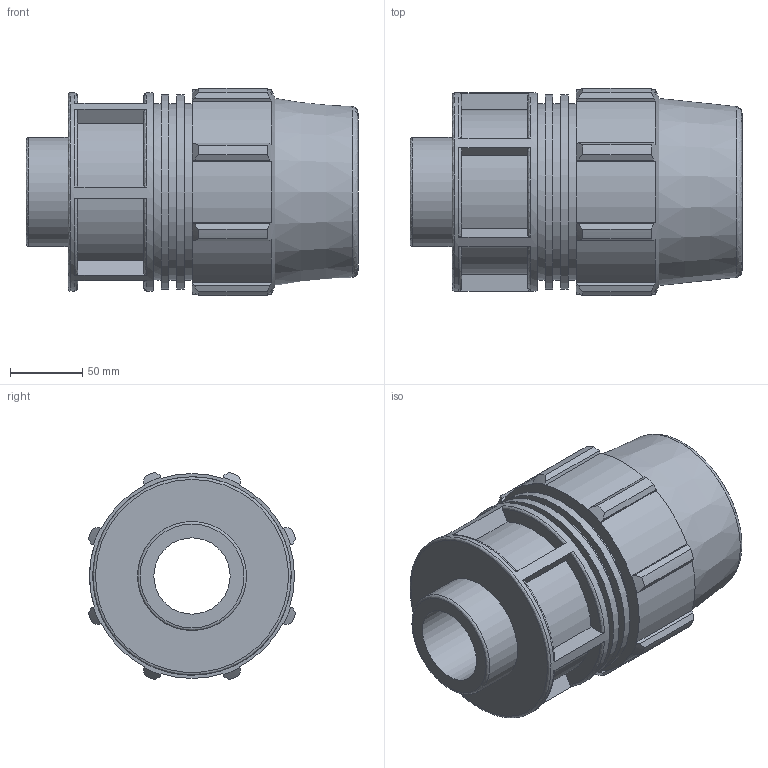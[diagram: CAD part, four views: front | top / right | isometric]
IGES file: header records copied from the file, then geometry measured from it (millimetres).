
Global section: file name: 870200090025_180200090025_840206090025.ipt; native system: Autodesk Inventor 2015; preprocessor: unknown; author: KIM; date: 20180325.201142; units: millimetre
Bounding box: 229 x 143.02 x 143.02 mm (x, y, z)
Volume: 1523040.6 mm3; surface area: 202142.2 mm2
Topology: 1 solids, 1 shells, 125 faces, 333 edges, 224 vertices
Faces by surface type: plane 67, cylinder 29, revolution 19, cone 10
Full cylindrical faces by diameter (mm): 75.184 x1, 121.6 x3, 134.064 x2, 136.8 x1
